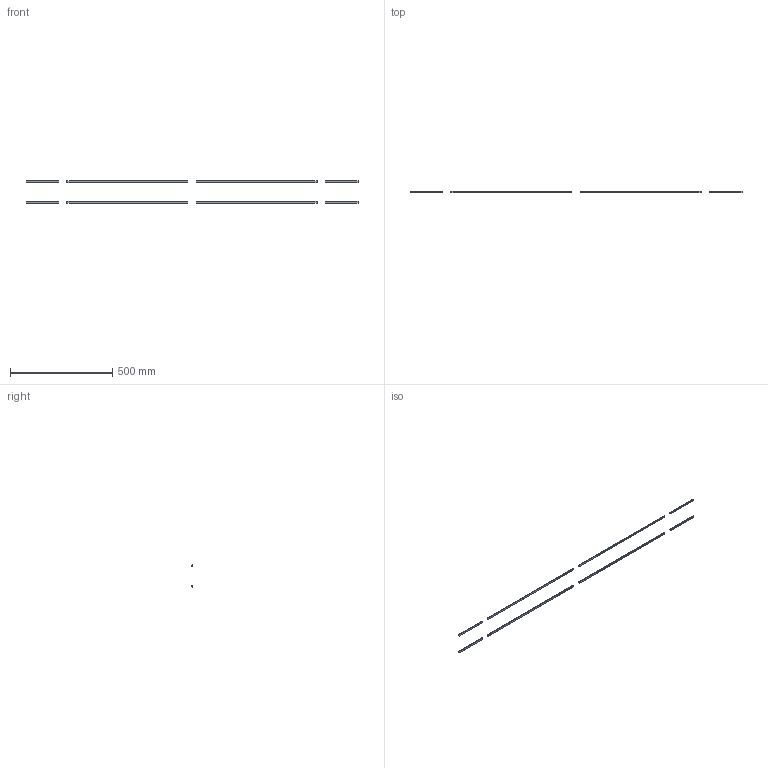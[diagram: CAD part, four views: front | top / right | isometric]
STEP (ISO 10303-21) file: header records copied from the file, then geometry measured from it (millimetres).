
FILE_DESCRIPTION(/* description */ (''),/* implementation_level */ '2;1');
FILE_NAME(/* name */ '3.frame-top#3.4#HSCP3H-B-12',/* time_stamp */ '2014-12-01T20:12:14+01:00',/* author */ (''),/* organization */ (''),/* preprocessor_version */ 'ST-DEVELOPER v14',/* originating_system */ '',/* authorisation */ '');
FILE_SCHEMA (('AUTOMOTIVE_DESIGN'));
Length unit declared in the file: millimetre
Products named in the file (1): Document
Bounding box: 1620 x 6 x 110 mm (x, y, z)
Volume: 86206 mm3; surface area: 84359.4 mm2
Topology: 8 solids, 8 shells, 88 faces, 216 edges, 144 vertices
Faces by surface type: plane 56, bspline 32
Entity records: 4841 total; most frequent: CARTESIAN_POINT 1906, B_SPLINE_CURVE_WITH_KNOTS 520, ORIENTED_EDGE 432, PCURVE 432, DEFINITIONAL_REPRESENTATION 432, SURFACE_CURVE 216, EDGE_CURVE 216, VERTEX_POINT 144
